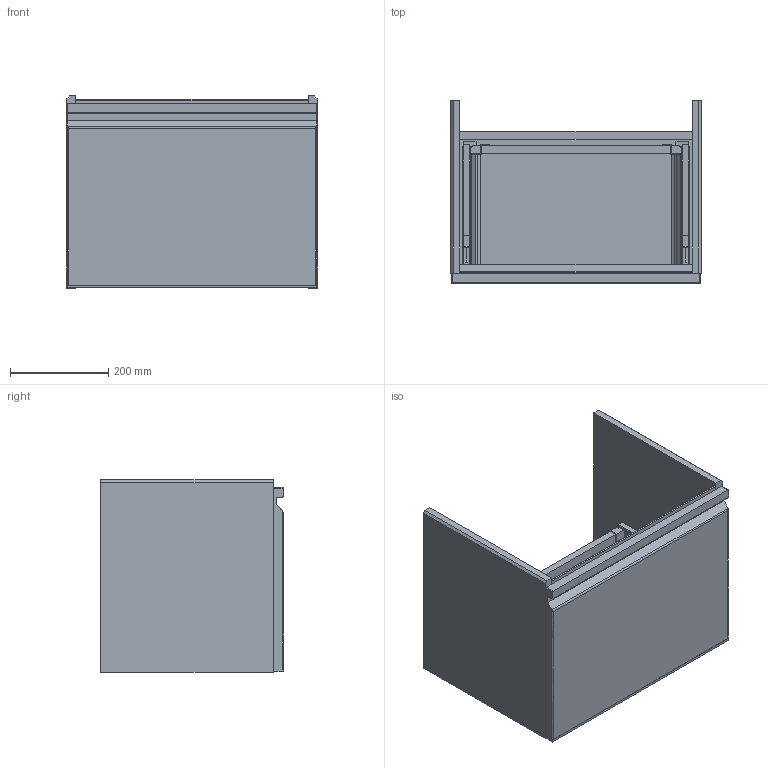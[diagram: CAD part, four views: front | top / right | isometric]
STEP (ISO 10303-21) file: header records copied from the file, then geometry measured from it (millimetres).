
FILE_DESCRIPTION(/* description */ (''),/* implementation_level */ '2;1');
FILE_NAME(/* name */ '3DE3E7~1',/* time_stamp */ '2018-05-14T08:52:59+02:00',/* author */ (''),/* organization */ (''),/* preprocessor_version */ 'ST-DEVELOPER v15',/* originating_system */ '',/* authorisation */ '');
FILE_SCHEMA (('AUTOMOTIVE_DESIGN'));
Length unit declared in the file: millimetre
Products named in the file (19): Document; 510 1 CASS_17; 510 1 CASS_16; 510 1 CASS_15; 510 1 CASS_14; 510 1 CASS_13; 510 1 CASS_12; 510 1 CASS_11; 510 1 CASS_10; 510 1 CASS_9; 510 1 CASS_8; 510 1 CASS_7; 510 1 CASS_6; 510 1 CASS_5; 510 1 CASS_4; 510 1 CASS_3; 510 1 CASS_2; 510 1 CASS_1; 510 1 CASS
Assembly tree (18 placements, depth 2):
  Document
    510 1 CASS_17
    510 1 CASS_16
    510 1 CASS_15
    510 1 CASS_14
    510 1 CASS_13
    510 1 CASS_12
    510 1 CASS_11
    510 1 CASS_10
    510 1 CASS_9
    510 1 CASS_8
    510 1 CASS_7
    510 1 CASS_6
    510 1 CASS_5
    510 1 CASS_4
    510 1 CASS_3
    510 1 CASS_2
    510 1 CASS_1
    510 1 CASS
Bounding box: 510.5 x 372.5 x 392 mm (x, y, z)
Volume: 15270124.5 mm3; surface area: 2088413.4 mm2
Topology: 18 solids, 18 shells, 518 faces, 1408 edges, 952 vertices
Faces by surface type: plane 364, bspline 154
Entity records: 18183 total; most frequent: CARTESIAN_POINT 8443, ORIENTED_EDGE 2816, EDGE_CURVE 1408, B_SPLINE_CURVE_WITH_KNOTS 1054, VERTEX_POINT 952, EDGE_LOOP 580, ADVANCED_FACE 518, FACE_OUTER_BOUND 518
